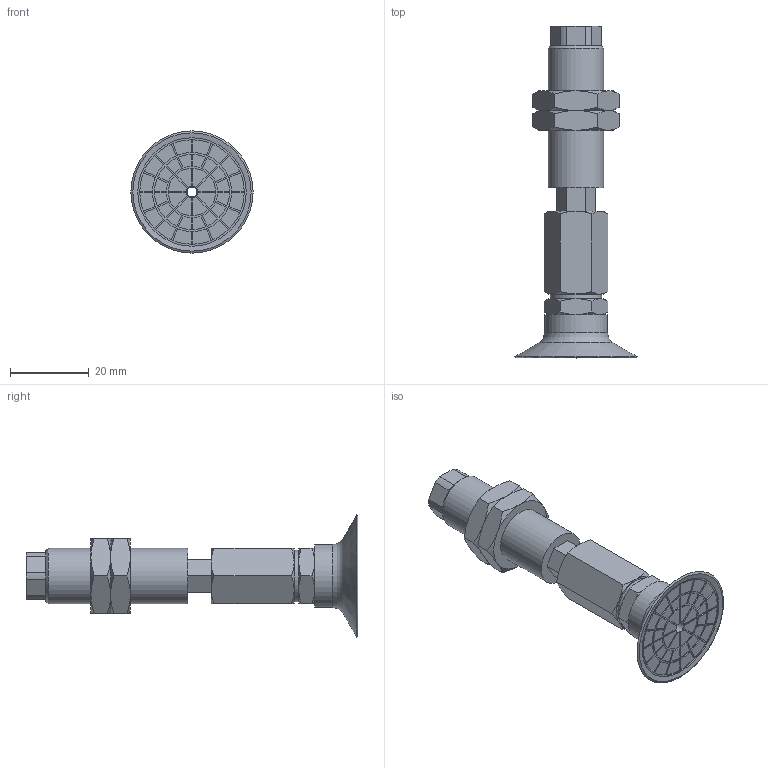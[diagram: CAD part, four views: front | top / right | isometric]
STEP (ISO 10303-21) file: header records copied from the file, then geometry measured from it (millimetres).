
FILE_DESCRIPTION(('STEP AP203'),'1');
FILE_NAME('.stp','2025-08-26T08:08:42',(' '),(' '),'Spatial InterOp 3D',' ',' ');
FILE_SCHEMA(('CONFIG_CONTROL_DESIGN'));
Length unit declared in the file: millimetre
Products named in the file (7): BNABPATH-30B-6-※; NAPATH-30-6--M; ADAPTER; Nut-25-S; NAPATH-30-6--F; BPAG-30B-※; TN-PA-30B-M6
Assembly tree (7 placements, depth 2):
  BNABPATH-30B-6-※
    NAPATH-30-6--M
    ADAPTER
    Nut-25-S  x2
    NAPATH-30-6--F
    BPAG-30B-※
    TN-PA-30B-M6
Bounding box: 31.04 x 84.2 x 31.04 mm (x, y, z)
Volume: 15238.1 mm3; surface area: 11586.4 mm2
Topology: 7 solids, 7 shells, 358 faces, 842 edges, 539 vertices
Faces by surface type: plane 197, cylinder 95, cone 60, torus 6
Full cylindrical faces by diameter (mm): 2.5 x1, 3 x3, 4.134 x1, 4.917 x1, 6 x3, 10 x2, 12.917 x2, 13 x1, 14 x1, 16 x1, 27.5 x1
Entity records: 10021 total; most frequent: CARTESIAN_POINT 1985, DIRECTION 1627, ORIENTED_EDGE 1508, EDGE_CURVE 754, AXIS2_PLACEMENT_3D 602, VERTEX_POINT 504, LINE 423, VECTOR 423
